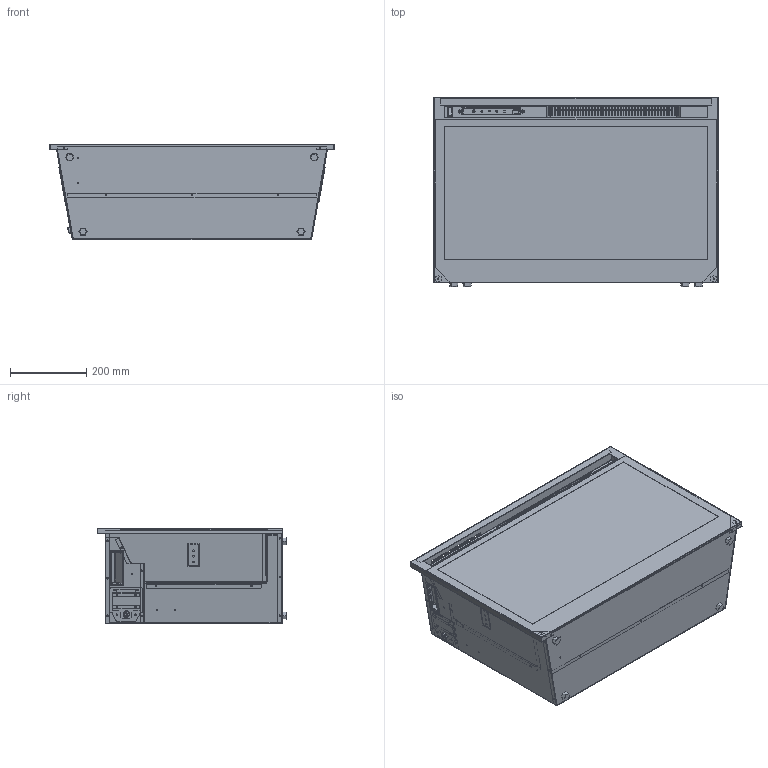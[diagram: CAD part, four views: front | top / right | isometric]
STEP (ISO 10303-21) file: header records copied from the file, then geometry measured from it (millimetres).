
FILE_DESCRIPTION((''),'2;1');
FILE_NAME('MF30_2','2025-10-13T15:30:34',('Administrator'),(''),'CREO PARAMETRIC BY PTC INC, 2022073','CREO PARAMETRIC BY PTC INC, 2022073','');
FILE_SCHEMA(('CONFIG_CONTROL_DESIGN','SHAPE_APPEARANCE_LAYERS_GROUPS'));
Products named in the file (1): MF30_2
Bounding box: 743 x 494.8 x 249.97 mm (x, y, z)
Topology: 20 solids, 579 shells, 10275 faces, 30338 edges, 20364 vertices
Faces by surface type: plane 6957, cylinder 2606, extrusion 349, sphere 135, bspline 90, cone 78, torus 60
Entity records: 424546 total; most frequent: CARTESIAN_POINT 86516, ORIENTED_EDGE 57374, DIRECTION 52320, EDGE_CURVE 30220, VECTOR 20846, LINE 20497, VERTEX_POINT 20364, PRESENTATION_STYLE_ASSIGNMENT 16795
